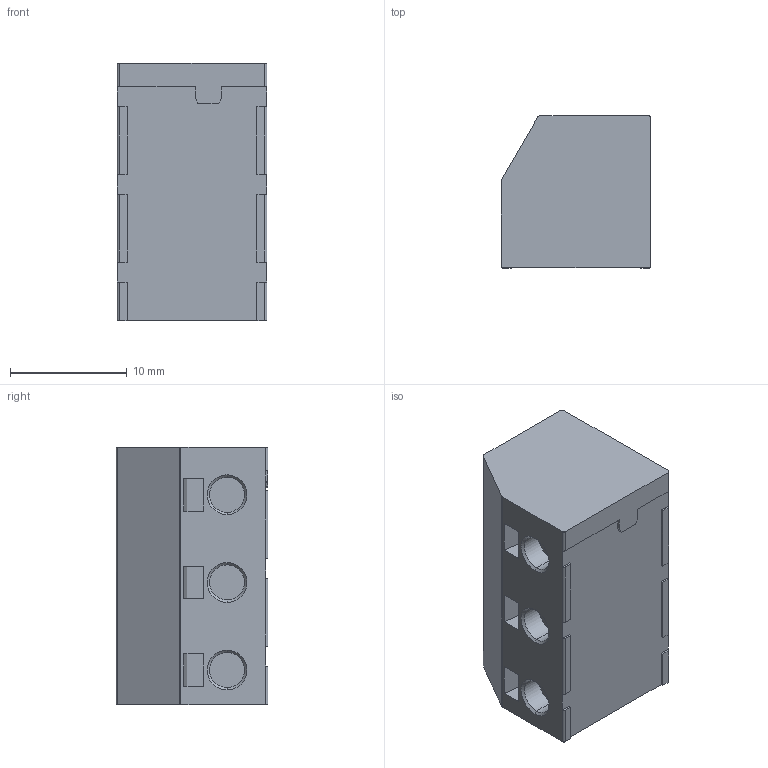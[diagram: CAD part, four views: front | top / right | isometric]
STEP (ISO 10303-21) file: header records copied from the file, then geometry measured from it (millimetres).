
FILE_DESCRIPTION((''),'2;1');
FILE_NAME('H7-03_SW0001','2019-06-05T',('zhenbing.lai'),(''),'CREO PARAMETRIC BY PTC INC, 2016260','CREO PARAMETRIC BY PTC INC, 2016260','');
FILE_SCHEMA(('CONFIG_CONTROL_DESIGN'));
Length unit declared in the file: millimetre
Products named in the file (1): H7-03_SW0001
Bounding box: 12.8 x 13 x 22 mm (x, y, z)
Volume: 3271.9 mm3; surface area: 1714.9 mm2
Topology: 1 solids, 8 shells, 278 faces, 669 edges, 429 vertices
Faces by surface type: plane 115, cone 77, cylinder 69, torus 17
Entity records: 8268 total; most frequent: CARTESIAN_POINT 1555, DIRECTION 1483, ORIENTED_EDGE 1338, EDGE_CURVE 669, AXIS2_PLACEMENT_3D 574, VERTEX_POINT 429, VECTOR 335, LINE 335
